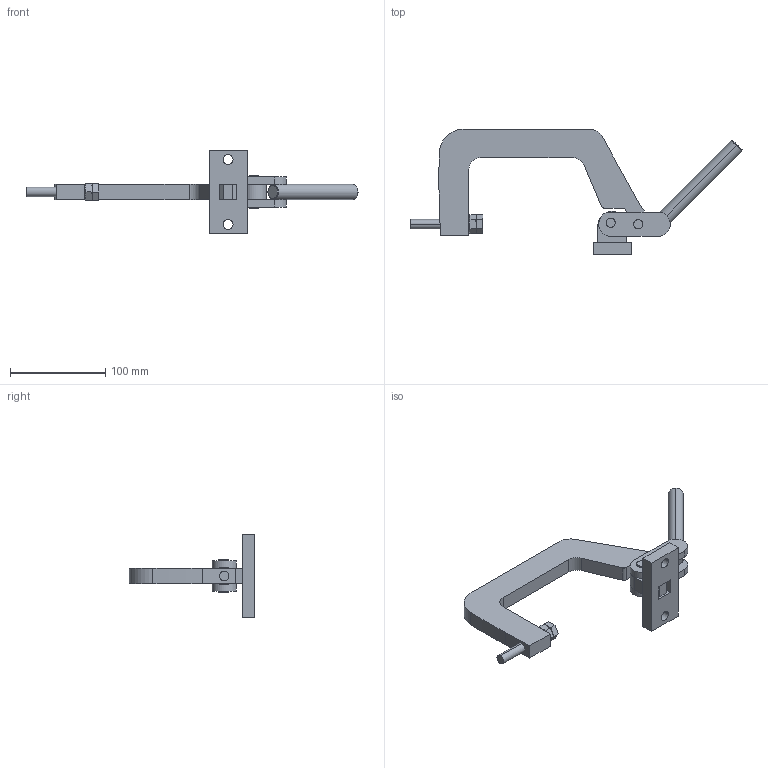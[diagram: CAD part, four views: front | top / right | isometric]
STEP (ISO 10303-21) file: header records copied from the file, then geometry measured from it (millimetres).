
FILE_DESCRIPTION (( 'STEP AP203' ), '1' );
FILE_NAME ('KF-035 100.STEP', '2019-01-11T11:47:45', ( 'Ricardo' ), ( '' ), 'SwSTEP 2.0', 'SolidWorks 2018', '' );
FILE_SCHEMA (( 'CONFIG_CONTROL_DESIGN' ));
Length unit declared in the file: millimetre
Products named in the file (9): 12.50004; 15.10148; 16.20138; 01.20028; 11.50003; 02.10067; 03.10030; 15.10137; KF-035 100
Assembly tree (10 placements, depth 2):
  KF-035 100
    02.10067
    15.10137
    15.10148  x2
    03.10030
    01.20028
    12.50004
    11.50003
    16.20138  x2
Bounding box: 349.13 x 132.2 x 88 mm (x, y, z)
Volume: 279150.2 mm3; surface area: 72176.8 mm2
Topology: 10 solids, 10 shells, 120 faces, 291 edges, 192 vertices
Faces by surface type: plane 64, cylinder 44, cone 12
Entity records: 4267 total; most frequent: CARTESIAN_POINT 676, DIRECTION 564, ORIENTED_EDGE 516, EDGE_CURVE 258, AXIS2_PLACEMENT_3D 202, VERTEX_POINT 170, VECTOR 160, LINE 160
